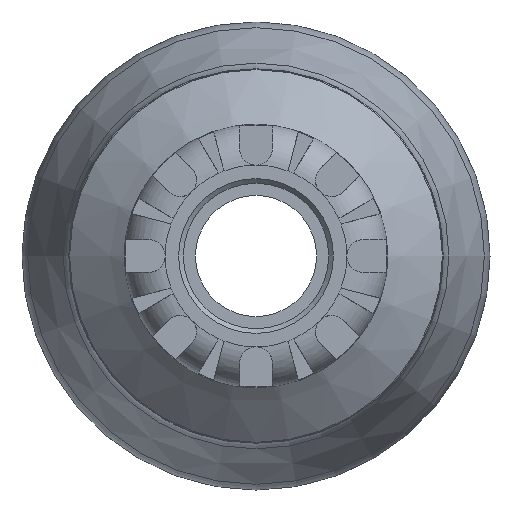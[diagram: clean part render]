
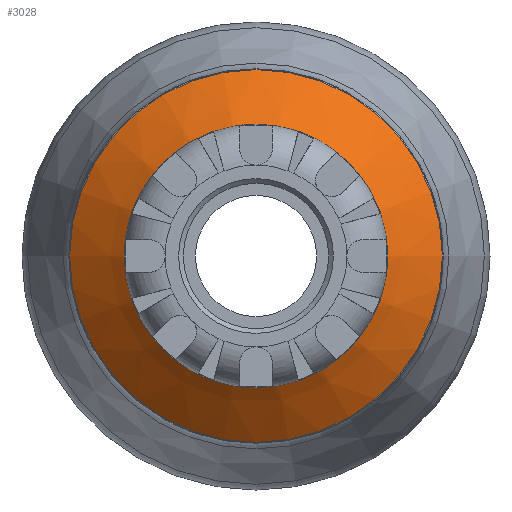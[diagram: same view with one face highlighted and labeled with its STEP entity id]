
A CAD part, left-side view. The second image highlights one B-rep face of the part: STEP entity #3028.
In plain terms, the highlighted conical face has half-angle 50 degrees and reference radius 32.2 mm.
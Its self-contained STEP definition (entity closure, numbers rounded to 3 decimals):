
#326=FACE_OUTER_BOUND('',#500,.T.);
#500=EDGE_LOOP('',(#2087,#2088,#2089,#2090,#2091,#2092,#2093,#2094));
#670=LINE('',#4983,#827);
#827=VECTOR('',#3805,32.2);
#1043=CIRCLE('',#3299,41.021);
#1044=CIRCLE('',#3300,41.021);
#1045=CIRCLE('',#3301,41.021);
#1047=CIRCLE('',#3304,23.379);
#1048=CIRCLE('',#3305,23.379);
#1049=CIRCLE('',#3306,23.379);
#1255=VERTEX_POINT('',#4973);
#1256=VERTEX_POINT('',#4975);
#1257=VERTEX_POINT('',#4977);
#1258=VERTEX_POINT('',#4982);
#1259=VERTEX_POINT('',#4984);
#1260=VERTEX_POINT('',#4986);
#1575=EDGE_CURVE('',#1255,#1256,#1043,.T.);
#1576=EDGE_CURVE('',#1256,#1257,#1044,.T.);
#1577=EDGE_CURVE('',#1257,#1255,#1045,.T.);
#1579=EDGE_CURVE('',#1256,#1258,#670,.T.);
#1580=EDGE_CURVE('',#1259,#1258,#1047,.T.);
#1581=EDGE_CURVE('',#1260,#1259,#1048,.T.);
#1582=EDGE_CURVE('',#1258,#1260,#1049,.T.);
#2087=ORIENTED_EDGE('',*,*,#1577,.F.);
#2088=ORIENTED_EDGE('',*,*,#1576,.F.);
#2089=ORIENTED_EDGE('',*,*,#1579,.T.);
#2090=ORIENTED_EDGE('',*,*,#1580,.F.);
#2091=ORIENTED_EDGE('',*,*,#1581,.F.);
#2092=ORIENTED_EDGE('',*,*,#1582,.F.);
#2093=ORIENTED_EDGE('',*,*,#1579,.F.);
#2094=ORIENTED_EDGE('',*,*,#1575,.F.);
#2857=CONICAL_SURFACE('',#3303,32.2,0.873);
#3028=ADVANCED_FACE('',(#326),#2857,.T.);
#3299=AXIS2_PLACEMENT_3D('',#4976,#3795,#3796);
#3300=AXIS2_PLACEMENT_3D('',#4978,#3797,#3798);
#3301=AXIS2_PLACEMENT_3D('',#4979,#3799,#3800);
#3303=AXIS2_PLACEMENT_3D('',#4981,#3803,#3804);
#3304=AXIS2_PLACEMENT_3D('',#4985,#3806,#3807);
#3305=AXIS2_PLACEMENT_3D('',#4987,#3808,#3809);
#3306=AXIS2_PLACEMENT_3D('',#4988,#3810,#3811);
#3795=DIRECTION('center_axis',(1.,0.,0.));
#3796=DIRECTION('ref_axis',(0.,-1.,0.));
#3797=DIRECTION('center_axis',(1.,0.,0.));
#3798=DIRECTION('ref_axis',(0.,-1.,0.));
#3799=DIRECTION('center_axis',(1.,0.,0.));
#3800=DIRECTION('ref_axis',(0.,-1.,0.));
#3803=DIRECTION('center_axis',(1.,0.,0.));
#3804=DIRECTION('ref_axis',(0.,1.,0.));
#3805=DIRECTION('',(-0.643,0.766,0.));
#3806=DIRECTION('center_axis',(-1.,0.,0.));
#3807=DIRECTION('ref_axis',(0.,-1.,0.));
#3808=DIRECTION('center_axis',(-1.,0.,0.));
#3809=DIRECTION('ref_axis',(0.,-1.,0.));
#3810=DIRECTION('center_axis',(-1.,0.,0.));
#3811=DIRECTION('ref_axis',(0.,-1.,0.));
#4973=CARTESIAN_POINT('',(-4.546,0.,41.021));
#4975=CARTESIAN_POINT('',(-4.546,-41.021,0.));
#4976=CARTESIAN_POINT('Origin',(-4.546,0.,
0.));
#4977=CARTESIAN_POINT('',(-4.546,41.021,0.));
#4978=CARTESIAN_POINT('Origin',(-4.546,0.,
0.));
#4979=CARTESIAN_POINT('Origin',(-4.546,0.,
0.));
#4981=CARTESIAN_POINT('Origin',(-11.948,0.,
0.));
#4982=CARTESIAN_POINT('',(-19.35,-23.379,0.));
#4983=CARTESIAN_POINT('',(-11.948,-32.2,0.));
#4984=CARTESIAN_POINT('',(-19.35,23.379,0.));
#4985=CARTESIAN_POINT('Origin',(-19.35,0.,0.));
#4986=CARTESIAN_POINT('',(-19.35,0.,23.379));
#4987=CARTESIAN_POINT('Origin',(-19.35,0.,0.));
#4988=CARTESIAN_POINT('Origin',(-19.35,0.,0.));
